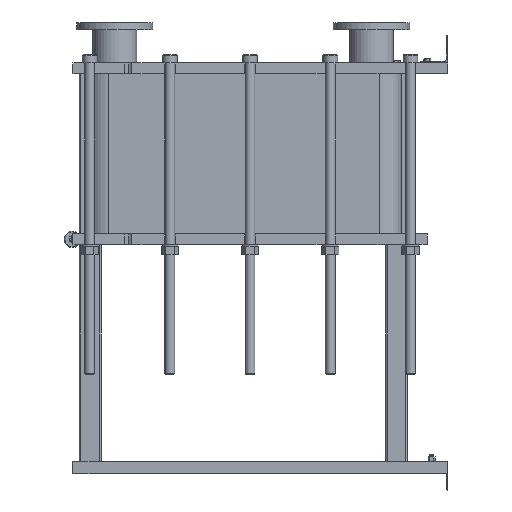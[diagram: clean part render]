
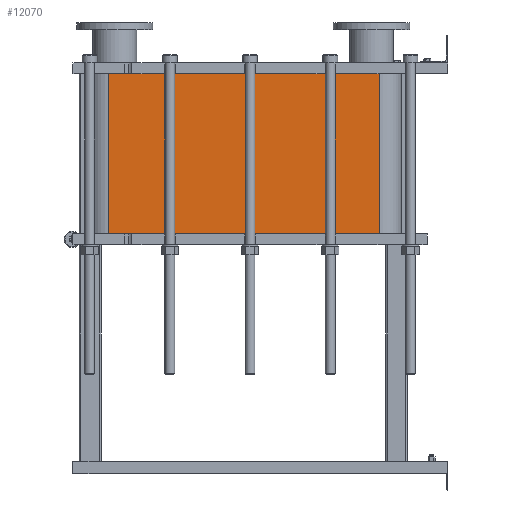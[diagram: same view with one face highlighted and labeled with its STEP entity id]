
A CAD part, left-side view. The second image highlights one B-rep face of the part: STEP entity #12070.
In plain terms, the highlighted planar face has unit normal (-1, 0, 0).
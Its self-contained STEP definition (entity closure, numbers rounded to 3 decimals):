
#1064=LINE('',#21140,#2164);
#1065=LINE('',#21144,#2165);
#1066=LINE('',#21146,#2166);
#1067=LINE('',#21147,#2167);
#2164=VECTOR('',#15790,10.);
#2165=VECTOR('',#15795,10.);
#2166=VECTOR('',#15796,10.);
#2167=VECTOR('',#15797,10.);
#3304=FACE_OUTER_BOUND('',#4091,.T.);
#4091=EDGE_LOOP('',(#9793,#9794,#9795,#9796));
#5677=VERTEX_POINT('',#21137);
#5678=VERTEX_POINT('',#21139);
#5679=VERTEX_POINT('',#21143);
#5680=VERTEX_POINT('',#21145);
#7118=EDGE_CURVE('',#5678,#5677,#1064,.T.);
#7120=EDGE_CURVE('',#5677,#5679,#1065,.T.);
#7121=EDGE_CURVE('',#5680,#5679,#1066,.T.);
#7122=EDGE_CURVE('',#5680,#5678,#1067,.T.);
#9793=ORIENTED_EDGE('',*,*,#7120,.T.);
#9794=ORIENTED_EDGE('',*,*,#7121,.F.);
#9795=ORIENTED_EDGE('',*,*,#7122,.T.);
#9796=ORIENTED_EDGE('',*,*,#7118,.T.);
#11441=PLANE('',#13191);
#12070=ADVANCED_FACE('',(#3304),#11441,.T.);
#13191=AXIS2_PLACEMENT_3D('',#21142,#15793,#15794);
#15790=DIRECTION('',(0.,0.,-1.));
#15793=DIRECTION('center_axis',(-1.,0.,0.));
#15794=DIRECTION('ref_axis',(0.,1.,0.));
#15795=DIRECTION('',(0.,-1.,0.));
#15796=DIRECTION('',(0.,0.,-1.));
#15797=DIRECTION('',(0.,1.,0.));
#21137=CARTESIAN_POINT('',(-248.152,1243.818,-586.5));
#21139=CARTESIAN_POINT('',(-248.152,1243.818,0.));
#21140=CARTESIAN_POINT('',(-248.152,1243.818,0.));
#21142=CARTESIAN_POINT('Origin',(-248.152,251.818,0.));
#21143=CARTESIAN_POINT('',(-248.152,251.818,-586.5));
#21144=CARTESIAN_POINT('',(-248.152,499.818,-586.5));
#21145=CARTESIAN_POINT('',(-248.152,251.818,0.));
#21146=CARTESIAN_POINT('',(-248.152,251.818,0.));
#21147=CARTESIAN_POINT('',(-248.152,251.818,0.));
